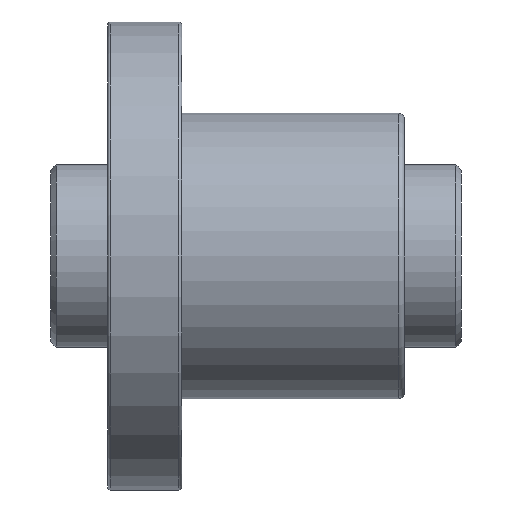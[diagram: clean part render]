
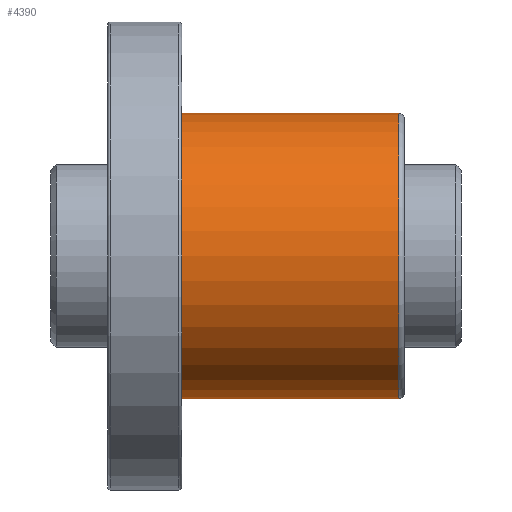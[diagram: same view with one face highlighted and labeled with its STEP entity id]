
A CAD part, front view. The second image highlights one B-rep face of the part: STEP entity #4390.
In plain terms, the highlighted cylindrical face has radius 25 mm (diameter 50 mm), a partial arc.
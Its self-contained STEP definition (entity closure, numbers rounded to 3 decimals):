
#79 = DIRECTION ( 'NONE',  ( 0., 0., -1. ) ) ;
#91 = CIRCLE ( 'NONE', #4274, 25. ) ;
#154 = CARTESIAN_POINT ( 'NONE',  ( 51., 0., -25. ) ) ;
#302 = CARTESIAN_POINT ( 'NONE',  ( 13., 0., 25. ) ) ;
#468 = CARTESIAN_POINT ( 'NONE',  ( 51., 0., 25. ) ) ;
#634 = DIRECTION ( 'NONE',  ( 0., 0., 1. ) ) ;
#657 = ORIENTED_EDGE ( 'NONE', *, *, #1203, .T. ) ;
#759 = CARTESIAN_POINT ( 'NONE',  ( 13., 0., 0. ) ) ;
#997 = EDGE_CURVE ( 'NONE', #2368, #4028, #3412, .T. ) ;
#1203 = EDGE_CURVE ( 'NONE', #2361, #3190, #1316, .T. ) ;
#1316 = LINE ( 'NONE', #3008, #3524 ) ;
#1448 = CARTESIAN_POINT ( 'NONE',  ( 51., 0., 0. ) ) ;
#1456 = DIRECTION ( 'NONE',  ( -1., 0., 0. ) ) ;
#1551 = CIRCLE ( 'NONE', #3053, 25. ) ;
#1605 = DIRECTION ( 'NONE',  ( -1., 0., 0. ) ) ;
#1651 = DIRECTION ( 'NONE',  ( -1., 0., 0. ) ) ;
#1925 = AXIS2_PLACEMENT_3D ( 'NONE', #3744, #1651, #634 ) ;
#2166 = DIRECTION ( 'NONE',  ( -1., 0., 0. ) ) ;
#2311 = ORIENTED_EDGE ( 'NONE', *, *, #997, .F. ) ;
#2344 = CARTESIAN_POINT ( 'NONE',  ( 13., 0., -25. ) ) ;
#2361 = VERTEX_POINT ( 'NONE', #468 ) ;
#2368 = VERTEX_POINT ( 'NONE', #154 ) ;
#2830 = EDGE_LOOP ( 'NONE', ( #2311, #2874, #657, #4392 ) ) ;
#2874 = ORIENTED_EDGE ( 'NONE', *, *, #3269, .T. ) ;
#2894 = EDGE_CURVE ( 'NONE', #4028, #3190, #91, .T. ) ;
#3008 = CARTESIAN_POINT ( 'NONE',  ( 52., 0., 25. ) ) ;
#3053 = AXIS2_PLACEMENT_3D ( 'NONE', #1448, #2166, #79 ) ;
#3141 = DIRECTION ( 'NONE',  ( -1., 0., 0. ) ) ;
#3190 = VERTEX_POINT ( 'NONE', #302 ) ;
#3222 = CYLINDRICAL_SURFACE ( 'NONE', #1925, 25. ) ;
#3269 = EDGE_CURVE ( 'NONE', #2368, #2361, #1551, .T. ) ;
#3412 = LINE ( 'NONE', #4174, #4451 ) ;
#3524 = VECTOR ( 'NONE', #1605, 1000. ) ;
#3744 = CARTESIAN_POINT ( 'NONE',  ( 52., 0., 0. ) ) ;
#3875 = DIRECTION ( 'NONE',  ( 0., 0., 1. ) ) ;
#4028 = VERTEX_POINT ( 'NONE', #2344 ) ;
#4142 = FACE_OUTER_BOUND ( 'NONE', #2830, .T. ) ;
#4174 = CARTESIAN_POINT ( 'NONE',  ( 52., 0., -25. ) ) ;
#4274 = AXIS2_PLACEMENT_3D ( 'NONE', #759, #1456, #3875 ) ;
#4390 = ADVANCED_FACE ( 'NONE', ( #4142 ), #3222, .T. ) ;
#4392 = ORIENTED_EDGE ( 'NONE', *, *, #2894, .F. ) ;
#4451 = VECTOR ( 'NONE', #3141, 1000. ) ;
